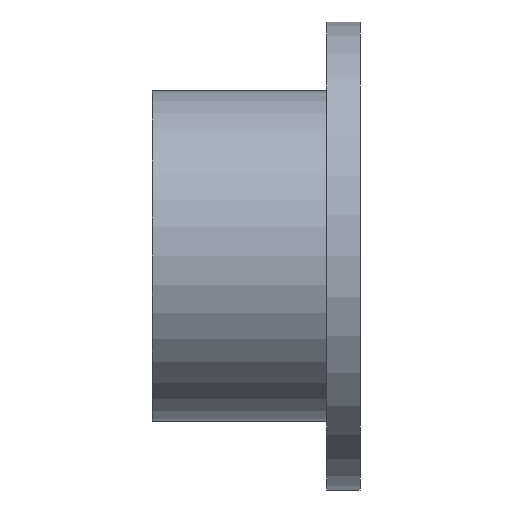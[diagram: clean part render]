
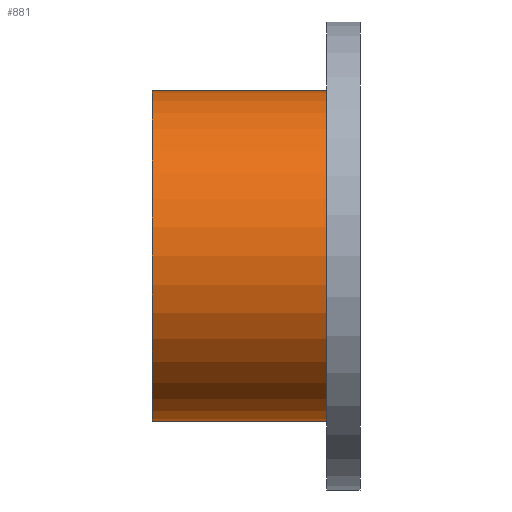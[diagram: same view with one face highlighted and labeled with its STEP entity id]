
A CAD part, left-side view. The second image highlights one B-rep face of the part: STEP entity #881.
In plain terms, the highlighted cylindrical face has radius 79.5 mm (diameter 159 mm), a partial arc.
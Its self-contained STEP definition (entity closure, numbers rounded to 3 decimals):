
#17 = CARTESIAN_POINT ( 'NONE',  ( 0., 16., 0. ) ) ;
#25 = CARTESIAN_POINT ( 'NONE',  ( 0., 100., 0. ) ) ;
#40 = ORIENTED_EDGE ( 'NONE', *, *, #636, .T. ) ;
#70 = ORIENTED_EDGE ( 'NONE', *, *, #615, .F. ) ;
#71 = DIRECTION ( 'NONE',  ( 0., 1., 0. ) ) ;
#74 = DIRECTION ( 'NONE',  ( 0., 0., 1. ) ) ;
#98 = CARTESIAN_POINT ( 'NONE',  ( 0., 100., -79.5 ) ) ;
#102 = DIRECTION ( 'NONE',  ( 0., 1., 0. ) ) ;
#135 = CARTESIAN_POINT ( 'NONE',  ( 0., 10., -79.5 ) ) ;
#183 = CARTESIAN_POINT ( 'NONE',  ( 0., 100., 79.5 ) ) ;
#226 = AXIS2_PLACEMENT_3D ( 'NONE', #25, #605, #864 ) ;
#234 = CARTESIAN_POINT ( 'NONE',  ( 0., 10., 0. ) ) ;
#274 = AXIS2_PLACEMENT_3D ( 'NONE', #17, #102, #594 ) ;
#311 = CIRCLE ( 'NONE', #226, 79.5 ) ;
#363 = EDGE_CURVE ( 'NONE', #908, #894, #311, .T. ) ;
#385 = FACE_OUTER_BOUND ( 'NONE', #819, .T. ) ;
#433 = CARTESIAN_POINT ( 'NONE',  ( 0., 10., 79.5 ) ) ;
#466 = VECTOR ( 'NONE', #899, 1000. ) ;
#488 = VERTEX_POINT ( 'NONE', #135 ) ;
#531 = AXIS2_PLACEMENT_3D ( 'NONE', #234, #901, #74 ) ;
#594 = DIRECTION ( 'NONE',  ( 0., 0., 1. ) ) ;
#604 = CIRCLE ( 'NONE', #531, 79.5 ) ;
#605 = DIRECTION ( 'NONE',  ( 0., 1., 0. ) ) ;
#615 = EDGE_CURVE ( 'NONE', #488, #908, #923, .T. ) ;
#636 = EDGE_CURVE ( 'NONE', #884, #894, #833, .T. ) ;
#690 = EDGE_CURVE ( 'NONE', #488, #884, #604, .T. ) ;
#760 = VECTOR ( 'NONE', #71, 1000. ) ;
#779 = CYLINDRICAL_SURFACE ( 'NONE', #274, 79.5 ) ;
#819 = EDGE_LOOP ( 'NONE', ( #70, #974, #40, #1003 ) ) ;
#833 = LINE ( 'NONE', #1044, #760 ) ;
#864 = DIRECTION ( 'NONE',  ( 0., 0., 1. ) ) ;
#881 = ADVANCED_FACE ( 'NONE', ( #385 ), #779, .T. ) ;
#884 = VERTEX_POINT ( 'NONE', #433 ) ;
#894 = VERTEX_POINT ( 'NONE', #183 ) ;
#899 = DIRECTION ( 'NONE',  ( 0., 1., 0. ) ) ;
#901 = DIRECTION ( 'NONE',  ( 0., 1., 0. ) ) ;
#908 = VERTEX_POINT ( 'NONE', #98 ) ;
#923 = LINE ( 'NONE', #1052, #466 ) ;
#974 = ORIENTED_EDGE ( 'NONE', *, *, #690, .T. ) ;
#1003 = ORIENTED_EDGE ( 'NONE', *, *, #363, .F. ) ;
#1044 = CARTESIAN_POINT ( 'NONE',  ( 0., 16., 79.5 ) ) ;
#1052 = CARTESIAN_POINT ( 'NONE',  ( 0., 16., -79.5 ) ) ;
